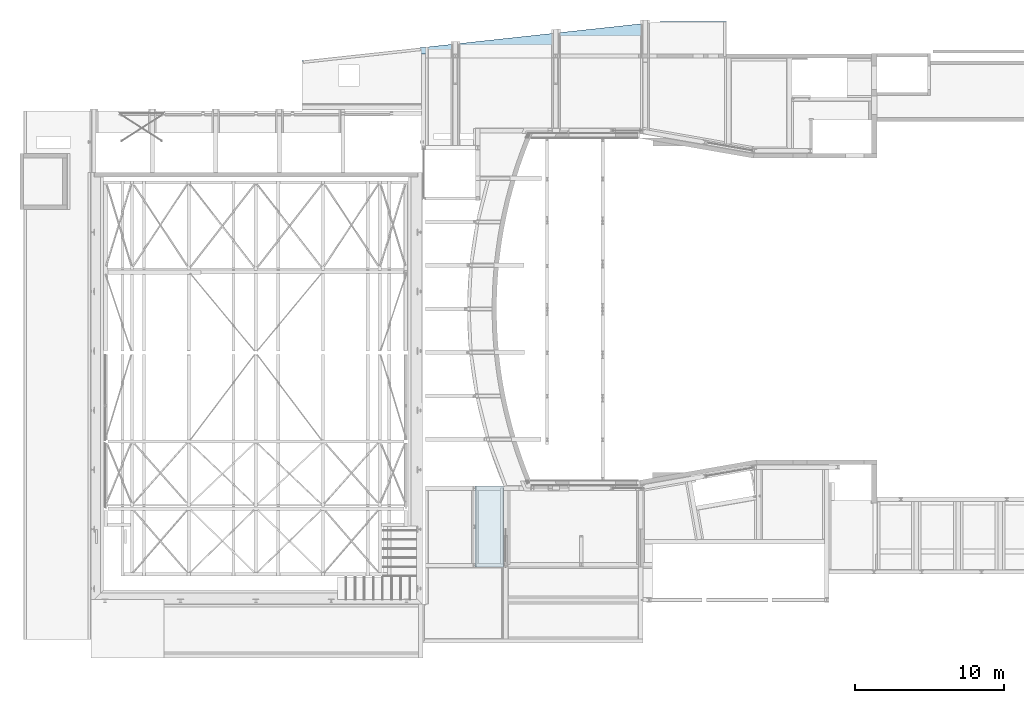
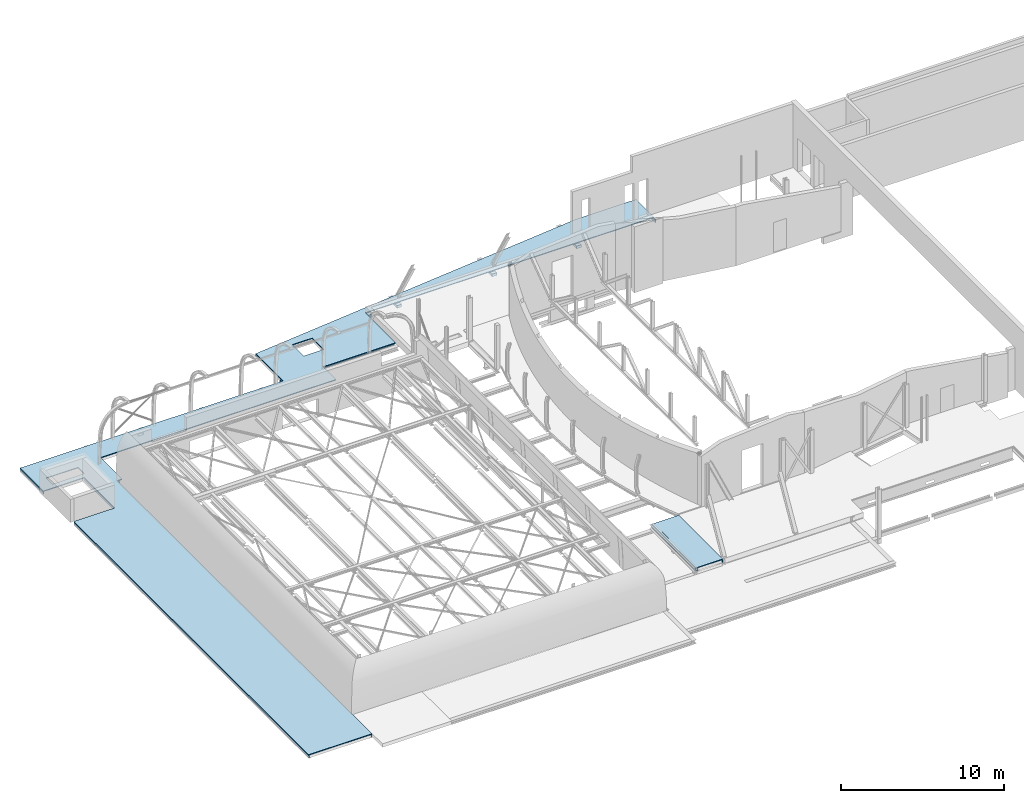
# One storey, part 35 of 38: 2 slabs.
"""IFC2X3 building model written with IfcOpenShell, lengths in millimetres."""

from ifc_helpers import new_model, entity, si_unit, converted_unit, derived_unit, direction, frame, origin, place, context, subcontext, project, spatial, faceted_brep, material, type_object, element, save


model = new_model("IFC2X3")

# Units and contexts
model_context = context("Model", 3, precision=0.01, world=origin(), true_north=direction((6.12303176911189e-17, 1.0)))
body_context = subcontext(model_context, "Body", "Model", "MODEL_VIEW")
ifc_project = project(units=[si_unit("LENGTHUNIT", "METRE", prefix="MILLI"), si_unit("AREAUNIT", "SQUARE_METRE", prefix="MILLI"), si_unit("VOLUMEUNIT", "CUBIC_METRE"), converted_unit("PLANEANGLEUNIT", "DEGREE", entity("IfcRatioMeasure", 0.0174532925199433), si_unit("PLANEANGLEUNIT", "RADIAN"), dimensions=[0, 0, 0, 0, 0, 0, 0]), si_unit("MASSUNIT", "GRAM", prefix="KILO"), derived_unit("MASSDENSITYUNIT", [(si_unit("MASSUNIT", "GRAM", prefix="KILO"), 1), (si_unit("LENGTHUNIT", "METRE"), -3)]), derived_unit("MOMENTOFINERTIAUNIT", [(si_unit("LENGTHUNIT", "METRE"), 4)]), si_unit("TIMEUNIT", "SECOND"), si_unit("FREQUENCYUNIT", "HERTZ"), si_unit("THERMODYNAMICTEMPERATUREUNIT", "DEGREE_CELSIUS"), derived_unit("THERMALTRANSMITTANCEUNIT", [(si_unit("MASSUNIT", "GRAM", prefix="KILO"), 1), (si_unit("THERMODYNAMICTEMPERATUREUNIT", "KELVIN"), -1), (si_unit("TIMEUNIT", "SECOND"), -3)]), derived_unit("VOLUMETRICFLOWRATEUNIT", [(si_unit("LENGTHUNIT", "METRE"), 3), (si_unit("TIMEUNIT", "SECOND"), -1)]), si_unit("ELECTRICCURRENTUNIT", "AMPERE"), si_unit("ELECTRICVOLTAGEUNIT", "VOLT"), si_unit("POWERUNIT", "WATT"), si_unit("FORCEUNIT", "NEWTON", prefix="KILO"), si_unit("ILLUMINANCEUNIT", "LUX"), si_unit("LUMINOUSFLUXUNIT", "LUMEN"), si_unit("LUMINOUSINTENSITYUNIT", "CANDELA"), derived_unit("USERDEFINED", [(si_unit("MASSUNIT", "GRAM", prefix="KILO"), -1), (si_unit("LENGTHUNIT", "METRE"), -2), (si_unit("TIMEUNIT", "SECOND"), 3), (si_unit("LUMINOUSFLUXUNIT", "LUMEN"), 1)]), derived_unit("LINEARVELOCITYUNIT", [(si_unit("LENGTHUNIT", "METRE"), 1), (si_unit("TIMEUNIT", "SECOND"), -1)]), si_unit("PRESSUREUNIT", "PASCAL"), derived_unit("USERDEFINED", [(si_unit("LENGTHUNIT", "METRE"), -2), (si_unit("MASSUNIT", "GRAM", prefix="KILO"), 1), (si_unit("TIMEUNIT", "SECOND"), -2)]), derived_unit("LINEARFORCEUNIT", [(si_unit("MASSUNIT", "GRAM", prefix="KILO"), 1), (si_unit("LENGTHUNIT", "METRE"), 1), (si_unit("TIMEUNIT", "SECOND"), -2), (si_unit("LENGTHUNIT", "METRE"), -1)]), derived_unit("PLANARFORCEUNIT", [(si_unit("MASSUNIT", "GRAM", prefix="KILO"), 1), (si_unit("LENGTHUNIT", "METRE"), 1), (si_unit("TIMEUNIT", "SECOND"), -2), (si_unit("LENGTHUNIT", "METRE"), -2)])], contexts=[model_context])

# Site, building, storey
site_placement = place(None, origin())
site = spatial("IfcSite", under=ifc_project, at=site_placement, Name="Theater aan de Parade", CompositionType="ELEMENT")
building_placement = place(site_placement, origin())
building = spatial("IfcBuilding", under=site, at=building_placement, Name="Theater aan de Parade", CompositionType="ELEMENT")
storey_placement = place(building_placement, frame((0.0, 0.0, 12480.0)))
storey = spatial("IfcBuildingStorey", under=building, at=storey_placement, Name="03 derde verdieping", CompositionType="ELEMENT", Elevation=12480.0)

# Slabs
ifc_material = material(Name="00_PBT_MAT_beton t.p.g._C30/37")
slab_type_1 = type_object("IfcSlabType", Name="Floor:28_PBT_FL_druklaag_d=60 (=260)_C30/37", PredefinedType="FLOOR")
slab_1_placement = place(storey_placement, origin())
element("IfcSlab", 1, at=slab_1_placement, inside=storey, type_object=slab_type_1, material=ifc_material, Name="Floor:28_PBT_FL_druklaag_d=60 (=260)_C30/37", ObjectType="Floor:28_PBT_FL_druklaag_d=60 (=260)_C30/37", PredefinedType="FLOOR", context=body_context, shape_type="Brep", body=[
    faceted_brep([(10604.11255372, 45723.0, -600.0), (10604.11255372, 42870.0, -600.0), (10579.6626541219, 42870.0, -600.0), (10579.6626541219, 45723.0, -600.0), (10604.1125537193, 39120.0, -600.0), (10604.1125537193, 10319.3270745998, -600.0), (10579.6626541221, 10319.3270745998, -600.0), (10579.6626541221, 15059.960588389, -600.0), (10579.6626541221, 19800.3617637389, -600.0), (10579.662654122, 24719.6635372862, -600.0), (10579.662654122, 29638.9653108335, -600.0), (10579.662654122, 34379.3664861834, -600.0), (10579.6626541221, 39120.0, -600.0), (13504.8570025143, 42870.0, -600.0), (13504.8570025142, 39120.0, -600.0), (13480.4071029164, 39120.0, -600.0), (13480.4071029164, 42870.0, -600.0), (15003.8570025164, 10319.3270745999, -600.0), (15003.8570025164, 41573.3083270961, -600.0), (15028.3069021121, 41573.3083270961, -600.0), (15028.3069021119, 36832.8257031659, -600.0), (15028.3069021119, 32092.3430792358, -600.0), (15028.3069021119, 25946.1867699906, -600.0), (15028.3069021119, 19800.2923224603, -600.0), (15028.3069021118, 15059.8096985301, -600.0), (15028.3069021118, 10319.3270745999, -600.0), (15248.607634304, 45723.0, -600.0), (15248.607634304, 41573.308327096, -600.0), (15093.857634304, 41573.308327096, -600.0), (15093.857634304, 45723.0, -600.0), (37203.8581300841, 46120.0, -600.0), (37203.8581300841, 45956.7499999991, -600.0), (29188.8975663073, 45956.7499999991, -600.0), (29188.8975663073, 46120.0, -600.0), (37453.8581300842, 49261.9979908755, -600.0), (37203.8581300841, 49261.9979908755, -600.0), (37203.8581300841, 49436.5870936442, -600.0), (37203.8581300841, 49905.889198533, -600.0), (29188.8975663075, 49036.203356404, -600.0), (29188.8975663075, 49086.4968436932, -600.0), (29277.0544719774, 49096.0625567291, -600.0), (29279.810679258, 49070.6615537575, -600.0), (32401.2414119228, 49409.3611760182, -600.0), (37113.8269950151, 49920.7135312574, -600.0), (37111.0707877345, 49946.1145342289, -600.0), (37203.8581300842, 49956.1826858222, -600.0), (37453.8581300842, 49983.3096390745, -600.0), (37453.8581300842, 49436.5870936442, -600.0), (52010.1246765, 50761.9979908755, -600.0), (46367.668810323, 50761.9979908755, -600.0), (46367.668810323, 49261.9979908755, -600.0), (46027.668810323, 49261.9979908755, -600.0), (46027.668810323, 50161.9979908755, -600.0), (39632.1672575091, 50161.9979908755, -600.0), (39632.1672575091, 49261.9979908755, -600.0), (39292.1672575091, 49261.9979908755, -600.0), (39292.1672575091, 49861.9979908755, -600.0), (37503.8581300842, 49861.9979908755, -600.0), (37503.8581300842, 49261.9979908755, -600.0), (37479.4082304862, 49261.9979908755, -600.0), (37479.4082304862, 49986.0820245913, -600.0), (52350.1246765, 51599.6709440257, -600.0), (52350.1246765, 49261.9979908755, -600.0), (52010.1246765, 49261.9979908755, -600.0), (57637.031563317, 51710.519112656, -600.0), (57637.031563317, 51671.5644848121, -600.0), (57611.4814629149, 51671.5644848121, -600.0), (57611.4814629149, 49351.5644848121, -600.0), (57637.031563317, 49351.5644848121, -600.0), (57637.031563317, 49261.9979908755, -600.0), (57587.0315633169, 49261.9979908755, -600.0), (57587.0315633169, 51661.9979908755, -600.0), (52924.5261423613, 51661.9979908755, -600.0), (53371.6932212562, 51710.519112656, -600.0), (37503.8581300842, 49261.9979908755, -400.0), (37453.8581300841, 49261.9979908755, -400.0), (37203.8581300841, 49261.9979908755, -400.0), (37453.8581300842, 49261.9979908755, -425.0), (37464.8581300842, 49261.9979908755, -425.0), (37471.2220911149, 49261.9979908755, -427.636038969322), (37473.8581300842, 49261.9979908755, -434.0), (37473.8581300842, 49261.9979908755, -587.0), (37474.5809159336, 49261.9979908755, -590.533797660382), (37475.3037017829, 49261.9979908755, -594.067595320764), (37477.3559661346, 49261.9979908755, -597.033797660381), (39632.1672575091, 49261.9979908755, -400.0), (39292.1672575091, 49261.9979908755, -400.0), (46367.668810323, 49261.9979908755, -400.0), (46027.668810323, 49261.9979908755, -400.0), (52350.1246765, 49261.9979908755, -400.0), (52010.1246765, 49261.9979908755, -400.0), (57637.031563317, 49261.9979908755, -400.0), (57587.0315633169, 49261.9979908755, -400.0), (33025.0, 48790.1873788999, -400.0), (37203.8581300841, 49905.889198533, -400.0), (37203.8581300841, 49511.9979908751, -400.0), (33025.0, 47390.1873788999, -400.0), (31625.0, 48790.1873788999, -400.0), (29188.8975663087, 49036.2033564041, -400.0), (31625.0, 47390.1873788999, -400.0), (29188.8975663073, 46120.0, -400.0), (37203.8581300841, 46120.0, -400.0), (37503.8581300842, 49511.9979908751, -400.0), (37503.8581300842, 49861.9979908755, -400.0), (39292.1672575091, 49861.9979908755, -400.0), (39292.1672575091, 49511.9979908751, -400.0), (39632.1672575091, 49511.9979908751, -400.0), (39632.1672575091, 50161.9979908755, -400.0), (46027.668810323, 50161.9979908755, -400.0), (46027.668810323, 49511.9979908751, -400.0), (46367.668810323, 49511.9979908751, -400.0), (46367.668810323, 50761.9979908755, -400.0), (52010.1246765, 50761.9979908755, -400.0), (52010.1246765, 49511.9979908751, -400.0), (13454.8570025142, 39120.0, -400.0), (10604.1125537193, 10319.3270745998, -400.0), (10604.1125537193, 39120.0, -400.0), (15003.8570025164, 10319.3270745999, -400.0), (13504.8570025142, 39120.0, -400.0), (15003.8570025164, 41573.3083270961, -400.0), (13504.8570025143, 42870.0, -400.0), (13674.3032326, 43240.0, -400.0), (13454.8570025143, 42870.0, -400.0), (11424.3032326, 43240.0, -400.0), (10604.11255372, 42870.0, -400.0), (11424.3032326, 44000.0, -400.0), (10604.11255372, 45723.0, -400.0), (13674.3032326, 44000.0, -400.0), (15093.857634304, 45723.0, -400.0), (15093.857634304, 41573.308327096, -400.0), (15053.8570025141, 41573.308327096, -400.0), (52924.5261423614, 51661.9979908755, -400.0), (57587.0315633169, 51661.9979908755, -400.0), (57587.0315633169, 49511.9979908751, -400.0), (52350.1246765, 49511.9979908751, -400.0), (52350.1246765, 51599.6709440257, -400.0), (31933.0224747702, 45800.0, -400.0), (31933.0224747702, 44223.308327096, -400.0), (15393.857634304, 44223.308327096, -400.0), (15253.857634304, 44223.308327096, -400.0), (15253.857634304, 45723.0, -400.0), (29188.8975663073, 45723.0, -400.0), (29188.8975663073, 45800.0, -400.0), (37203.8581300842, 49511.9979908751, -400.0), (57637.031563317, 49511.9979908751, -400.0), (10554.1125537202, 39120.0, -340.0), (15053.8570025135, 12969.2267696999, -340.0), (13454.8570025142, 39120.0, -340.0), (10554.1125537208, 10319.3270745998, -340.0), (15053.8570025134, 10319.3270745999, -340.0), (15053.8570025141, 41273.308327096, -340.0), (13454.8570025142, 39420.0, -340.0), (13454.8570025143, 42570.0, -340.0), (15053.8570025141, 41573.308327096, -340.0), (13674.3032326, 43240.0, -340.0), (15393.857634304, 44223.308327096, -340.0), (15393.857634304, 41573.308327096, -340.0), (13674.3032326, 44000.0, -340.0), (10554.1125537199, 45723.0, -340.0), (28938.8975663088, 45723.0, -340.0), (32073.0224747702, 44223.308327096, -340.0), (29188.8975663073, 45723.0, -340.0), (32073.0224747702, 45800.0, -340.0), (31625.0, 47390.1873788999, -340.0), (33025.0, 47390.1873788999, -340.0), (37203.8581300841, 45800.0, -340.0), (37203.8581300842, 49511.9979908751, -340.0), (33025.0, 48790.1873788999, -340.0), (29188.8975663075, 49086.4968436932, -340.0), (53371.6932212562, 51710.519112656, -340.0), (57637.031563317, 49511.9979908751, -340.0), (57637.031563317, 51710.519112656, -340.0), (31625.0, 48790.1873788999, -340.0), (11424.3032326, 44000.0, -340.0), (10554.1125537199, 42870.0, -340.0), (11424.3032326, 43240.0, -340.0), (13454.8570025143, 42870.0, -340.0), (15248.607634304, 41573.308327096, -447.0), (15246.8502749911, 41573.308327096, -442.757359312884), (15245.0929156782, 41573.308327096, -438.514718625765), (15243.3355563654, 41573.308327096, -434.272077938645), (15241.5781970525, 41573.308327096, -430.029437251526), (15237.3355563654, 41573.308327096, -428.272077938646), (15233.0929156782, 41573.308327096, -426.514718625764), (15229.5822665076, 41573.308327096, -425.06056012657), (15224.607634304, 41573.308327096, -423.0), (15113.857634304, 41573.308327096, -423.0), (15113.857634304, 41573.308327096, -405.0), (15393.857634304, 41573.308327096, -405.0), (10578.1876821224, 45723.0, -597.868176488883), (10575.5581254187, 45723.0, -594.067595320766), (10574.8353395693, 45723.0, -590.533797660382), (10574.1125537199, 45723.0, -587.0), (10574.1125537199, 45723.0, -434.0), (10571.4765147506, 45723.0, -427.636038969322), (10565.1125537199, 45723.0, -425.0), (10554.1125537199, 45723.0, -425.0), (15253.857634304, 45723.0, -405.0), (15113.857634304, 45723.0, -405.0), (15113.857634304, 45723.0, -423.0), (15224.607634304, 45723.0, -423.0), (15229.5822665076, 45723.0, -425.06056012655), (15234.5568987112, 45723.0, -427.121120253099), (15241.5781970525, 45723.0, -430.029437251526), (15243.3355563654, 45723.0, -434.272077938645), (15245.0929156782, 45723.0, -438.514718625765), (15246.8502749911, 45723.0, -442.757359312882), (15248.607634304, 45723.0, -447.0), (29188.8975663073, 45956.7499999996, -456.0), (29188.8975663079, 45959.2960006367, -449.853410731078), (29188.8975663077, 45960.7040584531, -446.45405845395), (29188.8975663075, 45962.6810876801, -441.681087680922), (29188.8975663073, 45964.6581169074, -436.908116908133), (29188.8975663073, 45969.4310876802, -434.931087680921), (29188.8975663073, 45974.2040584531, -432.954058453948), (29188.8975663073, 45978.9770292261, -430.977029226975), (29188.8975663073, 45983.7499999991, -429.0), (29188.8975663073, 46100.0, -429.0), (29188.8975663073, 46100.0, -405.0), (29188.8975663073, 45800.0, -405.0), (37111.0707877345, 49946.1145342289, -425.0), (29277.0544719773, 49096.062556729, -425.0), (37477.9553278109, 49985.9243732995, -597.900073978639), (37475.3037017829, 49985.6366511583, -594.067595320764), (37474.5809159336, 49985.5582232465, -590.533797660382), (37473.8581300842, 49985.4797953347, -587.0), (37473.8581300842, 49985.4797953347, -434.0), (37470.4695383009, 49985.1121066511, -426.963516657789), (37464.8581300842, 49984.5032250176, -425.0), (37453.8581300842, 49983.3096390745, -425.0), (37203.8581300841, 45956.7499999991, -456.0), (37203.8581300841, 45800.0, -405.0), (37203.8581300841, 46100.0, -405.0), (37203.8581300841, 46100.0, -429.0), (37203.8581300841, 45983.7499999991, -429.0), (37203.8581300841, 45962.6810876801, -441.681087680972), (37203.8581300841, 45960.7040584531, -446.45405845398), (37203.8581300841, 45958.7270292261, -451.227029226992), (37203.8581630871, 45978.9770292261, -430.977029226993), (10554.1125537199, 42870.0, -425.0), (10554.1125537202, 39120.0, -425.0), (10554.1125537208, 10319.3270745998, -425.0), (15053.8570025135, 12969.2267696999, -425.0), (15053.8570025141, 41573.3083270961, -425.0), (15053.8570025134, 10319.3270745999, -425.0), (15030.9858586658, 10319.3270745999, -596.12801967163), (15032.4114308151, 10319.3270745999, -594.067595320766), (15032.9135022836, 10319.3270745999, -591.612900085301), (15033.8570025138, 10319.3270745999, -587.0), (15033.8570025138, 10319.3270745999, -434.0), (15036.4930414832, 10319.3270745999, -427.636038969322), (15042.8570025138, 10319.3270745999, -425.0), (10565.1125537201, 10319.3270745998, -425.0), (10571.4765147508, 10319.3270745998, -427.636038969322), (10574.1125537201, 10319.3270745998, -434.0), (10574.1125537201, 10319.3270745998, -587.0), (10574.8353395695, 10319.3270745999, -590.533797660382), (10575.5581254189, 10319.3270745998, -594.067595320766), (10576.9836975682, 10319.3270745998, -596.12801967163), (10574.1125537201, 39120.0, -434.0), (10571.4765147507, 39120.0, -427.63603896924), (10565.1125537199, 39120.0, -425.0), (10577.6103897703, 39120.0, -597.033797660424), (10575.5581254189, 39120.0, -594.067595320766), (10574.8353395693, 39120.0, -590.533797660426), (10574.1125537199, 39120.0, -587.0), (13454.8570025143, 42870.0, -425.0), (13454.8570025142, 39120.0, -425.0), (10565.1125537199, 42870.0, -425.0), (10571.4765147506, 42870.0, -427.636038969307), (10574.1125537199, 42870.0, -434.0), (10574.1125537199, 42870.0, -587.0), (10574.8353395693, 42870.0, -590.533797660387), (10575.5581254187, 42870.0, -594.06759532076), (10577.6103897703, 42870.0, -597.033797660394), (15393.857634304, 44223.308327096, -405.0), (32073.0224747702, 45800.0, -405.0), (31793.0224747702, 45800.0, -405.0), (31933.0224747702, 45800.0, -405.0), (32073.0224747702, 44223.308327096, -405.0), (31933.0224747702, 44223.308327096, -405.0), (13478.3548385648, 42870.0, -597.033797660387), (13476.3025742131, 42870.0, -594.067595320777), (13475.5797883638, 42870.0, -590.533797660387), (13474.8570025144, 42870.0, -587.0), (13474.8570025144, 42870.0, -434.0), (13472.2209635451, 42870.0, -427.636038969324), (13465.8570025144, 42870.0, -425.0), (13465.8570025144, 39120.0, -425.0), (13472.2209635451, 39120.0, -427.636038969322), (13474.8570025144, 39120.0, -434.0), (13474.8570025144, 39120.0, -587.0), (13475.5797883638, 39120.0, -590.533797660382), (13476.3025742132, 39120.0, -594.067595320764), (13478.162785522, 39120.0, -596.756217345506), (15042.8570025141, 41573.3083270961, -425.0), (15036.4930414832, 41573.3083270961, -427.636038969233), (15033.8570025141, 41573.3083270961, -434.0), (15033.8570025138, 41573.3083270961, -587.0), (15032.9135022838, 41573.3083270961, -591.612900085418), (15032.4114308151, 41573.3083270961, -594.067595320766), (15030.3591664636, 41573.3083270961, -597.033797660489), (15033.8570025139, 15059.5639908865, -587.0), (15033.8570025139, 22611.2815368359, -587.0), (15033.857002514, 27351.8781614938, -587.0), (15033.857002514, 32092.4747861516, -587.0), (15033.857002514, 36832.7117024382, -587.0), (57637.031563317, 49351.5644848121, -425.0), (57637.031563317, 51671.5644848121, -425.0), (57626.0315633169, 51671.5644848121, -425.0), (57619.6676022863, 51671.5644848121, -427.636038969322), (57617.0315633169, 51671.5644848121, -434.0), (57617.0315633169, 51671.5644848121, -587.0), (57616.3085009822, 51671.5644848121, -590.534445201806), (57615.5854386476, 51671.5644848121, -594.068890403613), (57613.2954043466, 51671.5644848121, -597.378472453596), (57613.5334507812, 49351.5644848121, -597.034445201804), (57615.5854386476, 49351.5644848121, -594.068890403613), (57616.3085009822, 49351.5644848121, -590.534445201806), (57617.0315633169, 49351.5644848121, -587.0), (57617.0315633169, 49351.5644848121, -434.0), (57619.6676022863, 49351.5644848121, -427.636038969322), (57626.0315633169, 49351.5644848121, -425.0), (15033.3638171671, 29722.0704160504, -591.18466733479), (15033.4748816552, 24981.5752514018, -590.689218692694), (15031.6462783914, 29019.3178491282, -595.642844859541), (15032.8656411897, 16321.1188943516, -592.891197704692), (15030.8685775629, 17430.0698216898, -596.932402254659), (15030.6021953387, 21198.6082270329, -597.323724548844), (15030.7289613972, 25051.6806052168, -597.140258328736), (15031.6265797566, 35424.2700668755, -595.678734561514), (15033.4436100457, 20649.7207274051, -590.835522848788), (15033.3681153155, 34636.7303844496, -591.166644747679), (15032.2820781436, 22873.3175523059, -594.363211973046), (37112.2574085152, 49935.1787246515, -425.0), (29278.2410927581, 49085.1267471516, -425.0), (10574.1125537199, 34379.2677926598, -587.0), (10574.11255372, 29638.9170411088, -587.0), (10574.11255372, 24898.5662895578, -587.0), (10574.1125537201, 20157.834082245, -587.0), (10574.1125537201, 15238.5805784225, -587.0), (10576.6448304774, 27179.3366037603, -596.205951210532), (10576.6038594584, 33374.7809099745, -596.136761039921), (10574.410709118, 22528.2669241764, -590.262621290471), (10577.5695018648, 22259.9904707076, -597.606584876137), (10574.7829135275, 16792.7428798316, -591.866576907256), (10574.6464545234, 32524.083624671, -591.351480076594), (10576.8188489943, 17430.0698216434, -596.492238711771), (10574.6824398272, 27268.7620888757, -591.49345409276), (10575.580258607, 22259.9904704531, -594.119214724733), (15253.857634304, 44223.308327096, -405.0), (37113.5379865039, 49923.3770123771, -596.128114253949), (37113.3842802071, 49924.7935582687, -594.068890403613), (37113.3300789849, 49925.2930727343, -591.612851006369), (37113.2282800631, 49926.2312440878, -587.0), (37113.2282800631, 49926.2312440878, -434.0), (37112.9439183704, 49928.8519004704, -427.636038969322), (29278.9276026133, 49078.7999229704, -427.636038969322), (29279.211964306, 49076.1792665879, -434.0), (29279.211964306, 49076.1792665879, -587.0), (29279.3137632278, 49075.2410952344, -591.61285100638), (29279.36796445, 49074.7415807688, -594.068890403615), (29279.5216707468, 49073.3250348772, -596.128114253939), (33992.0440029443, 49587.5583641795, -587.0), (37203.8581300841, 45964.6581169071, -436.908116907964), (37203.8581410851, 45969.4310876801, -434.931087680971), (37203.8581520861, 45974.2040584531, -432.954058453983)], [[[0, 1, 2, 3]], [[4, 5, 6, 7, 8, 9, 10, 11, 12]], [[13, 14, 15, 16]], [[17, 18, 19, 20, 21, 22, 23, 24, 25]], [[26, 27, 28, 29]], [[30, 31, 32, 33]], [[34, 35, 36, 37, 38, 39, 40, 41, 42, 43, 44, 45, 46, 47]], [[48, 49, 50, 51, 52, 53, 54, 55, 56, 57, 58, 59, 60, 61, 62, 63]], [[64, 65, 66, 67, 68, 69, 70, 71, 72, 73]], [[58, 74, 75, 76, 35, 34, 77, 78, 79, 80, 81, 82, 83, 84, 59]], [[55, 54, 85, 86]], [[51, 50, 87, 88]], [[63, 62, 89, 90]], [[70, 69, 91, 92]], [[93, 94, 95]], [[95, 76, 93]], [[93, 76, 96]], [[93, 97, 94]], [[94, 97, 98]], [[99, 98, 97]], [[100, 99, 96]], [[98, 99, 100]], [[101, 100, 96]], [[96, 76, 101]], [[102, 103, 104, 105]], [[106, 107, 108, 109]], [[110, 111, 112, 113]], [[93, 94, 95]], [[95, 76, 93]], [[93, 76, 96]], [[93, 97, 94]], [[94, 97, 98]], [[99, 98, 97]], [[100, 99, 96]], [[98, 99, 100]], [[101, 100, 96]], [[96, 76, 101]], [[102, 104, 105]], [[104, 102, 103]], [[106, 108, 109]], [[108, 106, 107]], [[110, 112, 113]], [[112, 110, 111]], [[114, 115, 116]], [[114, 117, 115]], [[117, 114, 118]], [[118, 119, 117]], [[120, 119, 118]], [[121, 119, 120]], [[120, 122, 121]], [[123, 121, 122]], [[124, 123, 122]], [[124, 125, 123]], [[125, 124, 126]], [[125, 126, 127]], [[126, 128, 127]], [[128, 129, 127]], [[121, 127, 129]], [[121, 129, 130]], [[121, 130, 119]], [[131, 132, 133, 134, 135]], [[136, 137, 138, 139, 140, 141, 142]], [[85, 106, 105, 86]], [[87, 110, 109, 88]], [[75, 74, 102, 143, 76]], [[89, 134, 113, 90]], [[91, 144, 133, 92]], [[145, 146, 147]], [[146, 145, 148]], [[146, 148, 149]], [[150, 147, 146]], [[147, 150, 151]], [[150, 152, 151]], [[153, 152, 150]], [[152, 153, 154]], [[154, 153, 155]], [[156, 155, 153]], [[155, 157, 154]], [[158, 157, 155]], [[159, 158, 155]], [[155, 160, 159]], [[160, 161, 159]], [[160, 162, 161]], [[161, 162, 163]], [[162, 164, 163]], [[165, 164, 162]], [[164, 165, 166]], [[167, 164, 166]], [[167, 166, 168]], [[166, 169, 168]], [[169, 166, 170]], [[171, 169, 170]], [[168, 172, 167]], [[172, 168, 163]], [[163, 168, 161]], [[158, 173, 157]], [[173, 158, 174]], [[174, 175, 173]], [[176, 175, 174]], [[176, 154, 175]], [[176, 152, 154]], [[28, 27, 177, 178, 179, 180, 181, 182, 183, 184, 185, 186, 187, 188, 156, 153, 130, 129]], [[0, 3, 189, 190, 191, 192, 193, 194, 195, 196, 158, 159, 161, 141, 140, 197, 198, 199, 200, 201, 202, 203, 204, 205, 206, 207, 26, 29, 128, 126]], [[33, 32, 208, 209, 210, 211, 212, 213, 214, 215, 216, 217, 218, 219, 142, 141, 161, 168, 39, 38, 98, 100]], [[44, 220, 221, 40, 39, 168, 169, 73, 72, 131, 135, 61, 60, 222, 223, 224, 225, 226, 227, 228, 229, 46, 45]], [[230, 31, 30, 101, 76, 143, 166, 165, 231, 232, 233, 234, 235, 236, 237]], [[235, 234, 238]], [[196, 239, 174, 158]], [[240, 241, 148, 145]], [[242, 243, 130, 153, 150, 146, 149, 244]], [[17, 25, 245, 246, 247, 248, 249, 250, 251, 244, 149, 148, 241, 252, 253, 254, 255, 256, 257, 258, 6, 5, 115, 117]], [[259, 260, 261, 240, 145, 147, 114, 116, 4, 12, 262, 263, 264, 265]], [[266, 267, 114, 147, 151, 152, 176, 122]], [[1, 124, 122, 176, 174, 239, 268, 269, 270, 271, 272, 273, 274, 2]], [[97, 93, 167, 172]], [[97, 172, 163, 99]], [[99, 163, 164, 96]], [[96, 164, 167, 93]], [[188, 275, 138, 155, 156]], [[276, 231, 165, 162]], [[136, 142, 219, 277, 278]], [[26, 207, 177, 27]], [[279, 276, 162, 160]], [[137, 280, 279, 160, 155, 138]], [[13, 16, 281, 282, 283, 284, 285, 286, 287, 266, 122, 120]], [[117, 119, 18, 17]], [[115, 5, 4, 116]], [[126, 124, 1, 0]], [[14, 118, 114, 267, 288, 289, 290, 291, 292, 293, 294, 15]], [[118, 14, 13, 120]], [[18, 119, 130, 243, 295, 296, 297, 298, 299, 300, 301, 19]], [[249, 248, 302, 303, 304, 305, 306, 298, 297]], [[64, 73, 169, 171]], [[69, 68, 307, 308, 65, 64, 171, 170, 144, 91]], [[94, 98, 38, 37]], [[95, 94, 37, 36, 35, 76]], [[102, 74, 58, 57, 103]], [[104, 103, 57, 56]], [[105, 104, 56, 55, 86]], [[133, 132, 71, 70, 92]], [[134, 89, 62, 61, 135]], [[132, 131, 72, 71]], [[109, 108, 52, 51, 88]], [[106, 85, 54, 53, 107]], [[107, 53, 52, 108]], [[110, 87, 50, 49, 111]], [[112, 111, 49, 48]], [[113, 112, 48, 63, 90]], [[46, 229, 77, 34, 47]], [[226, 225, 81, 80]], [[65, 308, 309, 310, 311, 312, 313, 314, 315, 66]], [[68, 67, 316, 317, 318, 319, 320, 321, 322, 307]], [[319, 312, 311, 320]], [[323, 324, 325]], [[303, 324, 304]], [[326, 245, 327]], [[302, 248, 247]], [[299, 298, 306]], [[24, 23, 327]], [[328, 22, 329]], [[20, 330, 21]], [[324, 303, 331]], [[306, 305, 332]], [[328, 23, 22]], [[21, 325, 22]], [[330, 325, 21]], [[332, 325, 330]], [[332, 323, 325]], [[20, 19, 301]], [[245, 25, 24]], [[302, 247, 326]], [[303, 302, 331]], [[326, 247, 246]], [[23, 328, 327]], [[332, 305, 323]], [[304, 323, 305]], [[333, 325, 324]], [[300, 299, 332]], [[306, 332, 299]], [[304, 324, 323]], [[333, 324, 331]], [[331, 326, 333]], [[326, 331, 302]], [[327, 245, 24]], [[326, 327, 333]], [[326, 246, 245]], [[328, 333, 327]], [[329, 333, 328]], [[329, 325, 333]], [[329, 22, 325]], [[330, 20, 301]], [[301, 300, 330]], [[330, 300, 332]], [[83, 223, 222, 60, 59, 84]], [[224, 223, 83, 82, 81, 225]], [[316, 67, 66, 315, 314, 317]], [[318, 317, 314, 313, 312, 319]], [[244, 251, 295, 243, 242]], [[261, 252, 241, 240]], [[266, 287, 288, 267]], [[196, 195, 268, 239]], [[220, 334, 335, 221]], [[229, 228, 78, 77]], [[307, 322, 309, 308]], [[249, 297, 296, 250]], [[296, 295, 251, 250]], [[254, 259, 265, 336, 337, 338, 339, 340, 255]], [[193, 192, 271, 270]], [[10, 341, 342]], [[343, 339, 338]], [[8, 344, 9]], [[345, 340, 339]], [[345, 339, 343]], [[341, 9, 344]], [[342, 346, 263]], [[9, 341, 10]], [[347, 258, 257]], [[7, 347, 8]], [[10, 342, 11]], [[343, 348, 349]], [[346, 342, 341]], [[348, 346, 341]], [[262, 12, 11]], [[7, 6, 258]], [[273, 190, 189, 3, 2, 274]], [[348, 338, 337]], [[348, 337, 346]], [[349, 348, 341]], [[346, 337, 336]], [[336, 264, 346]], [[348, 343, 338]], [[345, 343, 349]], [[347, 344, 8]], [[256, 255, 340]], [[264, 336, 265]], [[191, 190, 273, 272, 271, 192]], [[349, 344, 347]], [[7, 258, 347]], [[349, 347, 345]], [[257, 345, 347]], [[341, 344, 349]], [[262, 11, 342]], [[342, 263, 262]], [[264, 263, 346]], [[256, 340, 345]], [[345, 257, 256]], [[253, 260, 259, 254]], [[193, 270, 269, 194]], [[252, 261, 260, 253]], [[269, 268, 195, 194]], [[285, 284, 291, 290]], [[282, 281, 16, 15, 294, 293]], [[283, 282, 293, 292, 291, 284]], [[289, 286, 285, 290]], [[288, 287, 286, 289]], [[199, 198, 187, 186]], [[200, 199, 186, 185]], [[200, 185, 184, 183, 182, 181, 203, 202, 201]], [[180, 179, 178, 177, 207, 206, 205, 204, 203, 181]], [[350, 275, 188, 187, 198, 197]], [[218, 232, 231, 276, 279, 280, 278, 277, 219]], [[44, 43, 351, 352, 353, 354, 355, 356, 334, 220]], [[40, 221, 335, 357, 358, 359, 360, 361, 362, 41]], [[355, 354, 363, 359, 358]], [[41, 362, 361, 352, 351, 43, 42]], [[354, 353, 352, 361, 360, 359, 363]], [[355, 358, 357, 356]], [[357, 335, 334, 356]], [[226, 80, 79]], [[226, 79, 227]], [[227, 78, 228]], [[78, 227, 79]], [[106, 109, 110, 113, 134, 133, 144, 170, 166, 143, 102, 105]], [[310, 321, 320, 311]], [[309, 322, 321, 310]], [[100, 101, 30, 33]], [[233, 232, 218, 217]], [[234, 233, 217, 216]], [[238, 234, 216, 215, 214, 213, 212, 364, 365, 366]], [[235, 364, 212, 211, 210, 209, 208, 230, 237, 236]], [[31, 230, 208, 32]], [[125, 127, 157, 173]], [[125, 173, 175, 123]], [[123, 175, 154, 121]], [[121, 154, 157, 127]], [[140, 139, 350, 197]], [[136, 278, 280, 137]], [[138, 275, 350, 139]], [[129, 128, 29, 28]], [[235, 238, 366, 365, 364]]]),
])
slab_type_2 = type_object("IfcSlabType", Name="Floor:28_PBT_FL_druklaag_d=60 (=260)_C30/37", PredefinedType="FLOOR")
slab_2_placement = place(storey_placement, origin())
element("IfcSlab", 2, at=slab_2_placement, inside=storey, type_object=slab_type_2, material=ifc_material, Name="Floor:28_PBT_FL_druklaag_d=60 (=260)_C30/37", ObjectType="Floor:28_PBT_FL_druklaag_d=60 (=260)_C30/37", PredefinedType="FLOOR", context=body_context, shape_type="Brep", body=[
    faceted_brep([(42649.9091634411, 20585.0, -140.0), (42694.9091634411, 20585.0, -140.0), (42694.9091634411, 20445.0, -140.0), (42669.3590630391, 20445.0, -140.0), (42669.3590630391, 15379.4841107, -140.0), (42694.9091634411, 15379.4841107, -140.0), (42694.9091634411, 15179.4841107, -140.0), (42649.9091634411, 15179.4841107, -140.0), (40902.74392317, 15179.4841107, -140.0), (40902.74392317, 20585.0, -140.0), (40922.74392317, 20585.0, -140.0), (40922.74392317, 15179.4841107, -140.0), (42694.9091634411, 15179.4841107, 120.0), (42694.9091634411, 20585.0, 120.0), (40902.74392317, 20585.0, 120.0), (40902.74392317, 15179.4841107, 120.0), (40767.99392317, 20585.0, -103.0), (40767.99392317, 20585.0, 93.0), (40769.7512824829, 20585.0, 97.2426406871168), (40771.5086417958, 20585.0, 101.485281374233), (40773.2660011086, 20585.0, 105.727922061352), (40775.0233604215, 20585.0, 109.970562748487), (40779.2660011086, 20585.0, 111.727922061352), (40783.5086417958, 20585.0, 113.485281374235), (40787.7512824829, 20585.0, 115.242640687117), (40791.99392317, 20585.0, 117.0), (40902.74392317, 20585.0, 117.0), (42649.9091634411, 20585.0, 60.0), (40922.74392317, 20585.0, 60.0), (40902.74392317, 20585.0, -127.0), (40791.99392317, 20585.0, -127.0), (40787.7512824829, 20585.0, -125.242640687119), (40783.5086417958, 20585.0, -123.485281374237), (40779.2660011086, 20585.0, -121.727922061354), (40775.0233604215, 20585.0, -119.97056274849), (40773.2660011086, 20585.0, -115.727922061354), (40771.5086417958, 20585.0, -111.485281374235), (40769.7512824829, 20585.0, -107.242640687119), (42694.9091634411, 15179.4841107, 31.0), (42694.9091634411, 15379.4841107, 35.0), (42694.9091634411, 20445.0, 35.0), (40767.99392317, 15179.4841107, -103.0), (40769.5757683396, 15179.4841107, -106.818912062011), (40771.1576135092, 15179.4841107, -110.637824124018), (40773.0904869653, 15179.4841107, -115.30419343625), (40775.0233604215, 15179.4841107, -119.970562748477), (40779.2660011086, 15179.4841107, -121.727922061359), (40783.5086417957, 15179.4841107, -123.485281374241), (40787.7512824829, 15179.4841107, -125.242640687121), (40791.99392317, 15179.4841107, -127.0), (40902.74392317, 15179.4841107, -127.0), (40922.74392317, 15179.4841107, 60.0), (42649.9091634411, 15179.4841107, 60.0), (40902.74392317, 15179.4841107, 117.0), (40791.99392317, 15179.4841107, 117.0), (40788.175011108, 15179.4841107, 115.418154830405), (40784.356099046, 15179.4841107, 113.836309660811), (40779.6897297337, 15179.4841107, 111.903436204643), (40775.0233604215, 15179.4841107, 109.970562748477), (40773.2660011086, 15179.4841107, 105.727922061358), (40771.5086417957, 15179.4841107, 101.485281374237), (40769.7512824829, 15179.4841107, 97.2426406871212), (40767.99392317, 15179.4841107, 93.0), (42683.9091634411, 15379.4841107, 35.0), (42683.9091634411, 20445.0, 35.0), (42677.5452024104, 20445.0, 32.3639610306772), (42674.9091634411, 20445.0, 26.0), (42674.9091634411, 20445.0, -127.0), (42674.1861011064, 20445.0, -130.534445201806), (42673.4630387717, 20445.0, -134.068890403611), (42671.0206288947, 20445.0, -137.5986872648), (42671.4110509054, 15379.4841107, -137.034445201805), (42673.4630387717, 15379.4841107, -134.068890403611), (42674.1861011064, 15379.4841107, -130.534445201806), (42674.9091634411, 15379.4841107, -127.0), (42674.9091634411, 15379.4841107, 26.0), (42677.5452024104, 15379.4841107, 32.3639610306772)], [[[0, 1, 2, 3, 4, 5, 6, 7]], [[8, 9, 10, 11]], [[12, 13, 14, 15]], [[16, 17, 18, 19, 20, 21, 22, 23, 24, 25, 26, 14, 13, 1, 0, 27, 28, 10, 9, 29, 30, 31, 32, 33, 34, 35, 36, 37]], [[2, 1, 13, 12, 38, 6, 5, 39, 40]], [[41, 42, 43, 44, 45, 46, 47, 48, 49, 50, 8, 11, 51, 52, 7, 6, 38, 12, 15, 53, 54, 55, 56, 57, 58, 59, 60, 61, 62]], [[41, 62, 17, 16]], [[36, 35, 34, 45, 44, 43, 42, 41, 16, 37]], [[33, 32, 31, 30, 49, 48, 47, 46, 45, 34]], [[28, 27, 52, 51]], [[27, 0, 7, 52]], [[10, 28, 51, 11]], [[63, 64, 40, 39]], [[2, 40, 64, 65, 66, 67, 68, 69, 70, 3]], [[5, 4, 71, 72, 73, 74, 75, 76, 63, 39]], [[74, 67, 66, 75]], [[65, 76, 75, 66]], [[64, 63, 76, 65]], [[71, 4, 3, 70, 69, 72]], [[73, 72, 69, 68, 67, 74]], [[23, 22, 21, 58, 57, 56, 55, 54, 25, 24]], [[20, 19, 18, 17, 62, 61, 60, 59, 58, 21]], [[53, 15, 14, 26]], [[8, 50, 29, 9]], [[54, 53, 26, 25]], [[50, 49, 30, 29]]]),
])

save(model, "model.ifc")
